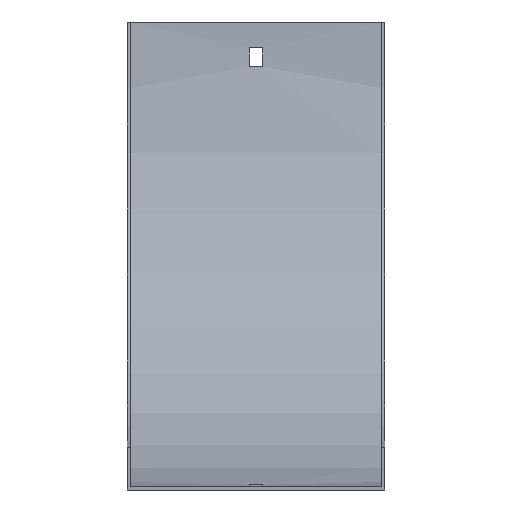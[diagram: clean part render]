
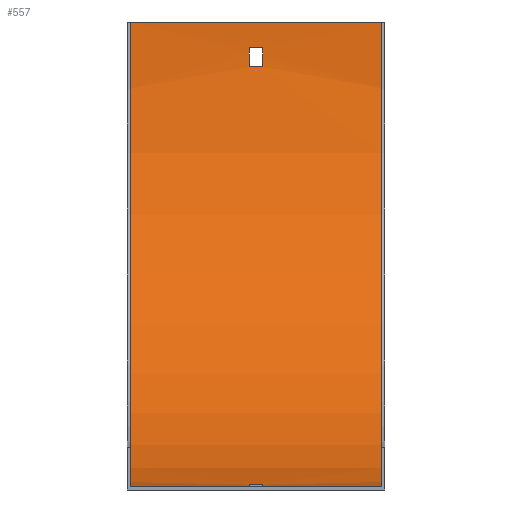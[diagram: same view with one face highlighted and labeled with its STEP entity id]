
A CAD part, front view. The second image highlights one B-rep face of the part: STEP entity #557.
In plain terms, the highlighted cylindrical face has radius 217.5 mm (diameter 435 mm), a partial arc.
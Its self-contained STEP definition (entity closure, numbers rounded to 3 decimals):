
#6 = CYLINDRICAL_SURFACE ( 'NONE', #323, 217.5 ) ;
#13 = DIRECTION ( 'NONE',  ( -1., 0., 0. ) ) ;
#23 = VECTOR ( 'NONE', #208, 1000. ) ;
#28 = CARTESIAN_POINT ( 'NONE',  ( -3.25, -219., 0. ) ) ;
#29 = CARTESIAN_POINT ( 'NONE',  ( 3.25, -198., -216.484 ) ) ;
#38 = CARTESIAN_POINT ( 'NONE',  ( 58.75, -219., 0. ) ) ;
#39 = CARTESIAN_POINT ( 'NONE',  ( 3.25, -2.516, -21. ) ) ;
#45 = EDGE_CURVE ( 'NONE', #457, #298, #189, .T. ) ;
#62 = VERTEX_POINT ( 'NONE', #272 ) ;
#78 = VERTEX_POINT ( 'NONE', #411 ) ;
#80 = DIRECTION ( 'NONE',  ( 0., 0., 1. ) ) ;
#81 = VERTEX_POINT ( 'NONE', #39 ) ;
#82 = CARTESIAN_POINT ( 'NONE',  ( 58.75, -1.5, 0. ) ) ;
#84 = CIRCLE ( 'NONE', #543, 217.5 ) ;
#91 = DIRECTION ( 'NONE',  ( 0., 0., 1. ) ) ;
#93 = CARTESIAN_POINT ( 'NONE',  ( -3.25, -198., -216.484 ) ) ;
#96 = ORIENTED_EDGE ( 'NONE', *, *, #195, .T. ) ;
#97 = CARTESIAN_POINT ( 'NONE',  ( -3.25, -207., -217.169 ) ) ;
#113 = EDGE_LOOP ( 'NONE', ( #217, #503, #534, #523 ) ) ;
#116 = CARTESIAN_POINT ( 'NONE',  ( 3.25, -219., 0. ) ) ;
#120 = DIRECTION ( 'NONE',  ( 0., 0., 1. ) ) ;
#122 = CARTESIAN_POINT ( 'NONE',  ( 60.25, -1.831, -12. ) ) ;
#126 = AXIS2_PLACEMENT_3D ( 'NONE', #519, #202, #568 ) ;
#132 = ORIENTED_EDGE ( 'NONE', *, *, #537, .F. ) ;
#133 = DIRECTION ( 'NONE',  ( 0., 0., -1. ) ) ;
#137 = EDGE_CURVE ( 'NONE', #269, #457, #184, .T. ) ;
#139 = CARTESIAN_POINT ( 'NONE',  ( -58.75, -219., 0. ) ) ;
#142 = VERTEX_POINT ( 'NONE', #29 ) ;
#148 = ORIENTED_EDGE ( 'NONE', *, *, #281, .F. ) ;
#149 = CARTESIAN_POINT ( 'NONE',  ( 60.25, -207., -217.169 ) ) ;
#163 = ORIENTED_EDGE ( 'NONE', *, *, #409, .F. ) ;
#167 = ORIENTED_EDGE ( 'NONE', *, *, #302, .T. ) ;
#184 = LINE ( 'NONE', #330, #541 ) ;
#189 = CIRCLE ( 'NONE', #511, 217.5 ) ;
#195 = EDGE_CURVE ( 'NONE', #142, #388, #480, .T. ) ;
#198 = CARTESIAN_POINT ( 'NONE',  ( 60.25, -2.516, -21. ) ) ;
#202 = DIRECTION ( 'NONE',  ( 1., 0., 0. ) ) ;
#208 = DIRECTION ( 'NONE',  ( -1., 0., 0. ) ) ;
#212 = LINE ( 'NONE', #310, #508 ) ;
#213 = EDGE_LOOP ( 'NONE', ( #163, #148, #132, #439 ) ) ;
#217 = ORIENTED_EDGE ( 'NONE', *, *, #45, .F. ) ;
#224 = DIRECTION ( 'NONE',  ( -1., 0., 0. ) ) ;
#243 = CARTESIAN_POINT ( 'NONE',  ( 58.75, -219., -217.5 ) ) ;
#249 = DIRECTION ( 'NONE',  ( 1., 0., 0. ) ) ;
#251 = ORIENTED_EDGE ( 'NONE', *, *, #428, .T. ) ;
#255 = CARTESIAN_POINT ( 'NONE',  ( 3.25, -207., -217.169 ) ) ;
#269 = VERTEX_POINT ( 'NONE', #243 ) ;
#270 = DIRECTION ( 'NONE',  ( 1., 0., 0. ) ) ;
#272 = CARTESIAN_POINT ( 'NONE',  ( 58.75, -1.5, 0. ) ) ;
#276 = ORIENTED_EDGE ( 'NONE', *, *, #555, .T. ) ;
#281 = EDGE_CURVE ( 'NONE', #78, #558, #578, .T. ) ;
#284 = VECTOR ( 'NONE', #249, 1000. ) ;
#294 = CIRCLE ( 'NONE', #126, 217.5 ) ;
#298 = VERTEX_POINT ( 'NONE', #490 ) ;
#302 = EDGE_CURVE ( 'NONE', #488, #142, #212, .T. ) ;
#310 = CARTESIAN_POINT ( 'NONE',  ( 60.25, -198., -216.484 ) ) ;
#313 = VECTOR ( 'NONE', #449, 1000. ) ;
#321 = CARTESIAN_POINT ( 'NONE',  ( -3.25, -219., 0. ) ) ;
#323 = AXIS2_PLACEMENT_3D ( 'NONE', #524, #13, #471 ) ;
#330 = CARTESIAN_POINT ( 'NONE',  ( 58.75, -219., -217.5 ) ) ;
#342 = FACE_OUTER_BOUND ( 'NONE', #113, .T. ) ;
#347 = EDGE_CURVE ( 'NONE', #62, #298, #453, .T. ) ;
#354 = DIRECTION ( 'NONE',  ( 1., 0., 0. ) ) ;
#373 = CARTESIAN_POINT ( 'NONE',  ( -58.75, -219., -217.5 ) ) ;
#388 = VERTEX_POINT ( 'NONE', #255 ) ;
#391 = VERTEX_POINT ( 'NONE', #444 ) ;
#409 = EDGE_CURVE ( 'NONE', #558, #391, #522, .T. ) ;
#411 = CARTESIAN_POINT ( 'NONE',  ( 3.25, -1.831, -12. ) ) ;
#428 = EDGE_CURVE ( 'NONE', #484, #488, #443, .T. ) ;
#439 = ORIENTED_EDGE ( 'NONE', *, *, #540, .F. ) ;
#441 = AXIS2_PLACEMENT_3D ( 'NONE', #116, #533, #120 ) ;
#443 = CIRCLE ( 'NONE', #510, 217.5 ) ;
#444 = CARTESIAN_POINT ( 'NONE',  ( -3.25, -2.516, -21. ) ) ;
#448 = EDGE_CURVE ( 'NONE', #269, #62, #84, .T. ) ;
#449 = DIRECTION ( 'NONE',  ( -1., 0., 0. ) ) ;
#451 = VECTOR ( 'NONE', #224, 1000. ) ;
#453 = LINE ( 'NONE', #82, #451 ) ;
#457 = VERTEX_POINT ( 'NONE', #373 ) ;
#465 = CARTESIAN_POINT ( 'NONE',  ( -3.25, -1.831, -12. ) ) ;
#471 = DIRECTION ( 'NONE',  ( 0., 0., 1. ) ) ;
#478 = FACE_BOUND ( 'NONE', #486, .T. ) ;
#480 = CIRCLE ( 'NONE', #441, 217.5 ) ;
#482 = LINE ( 'NONE', #198, #284 ) ;
#484 = VERTEX_POINT ( 'NONE', #97 ) ;
#486 = EDGE_LOOP ( 'NONE', ( #276, #251, #167, #96 ) ) ;
#488 = VERTEX_POINT ( 'NONE', #93 ) ;
#490 = CARTESIAN_POINT ( 'NONE',  ( -58.75, -1.5, 0. ) ) ;
#503 = ORIENTED_EDGE ( 'NONE', *, *, #137, .F. ) ;
#508 = VECTOR ( 'NONE', #354, 1000. ) ;
#510 = AXIS2_PLACEMENT_3D ( 'NONE', #321, #606, #133 ) ;
#511 = AXIS2_PLACEMENT_3D ( 'NONE', #139, #270, #80 ) ;
#516 = DIRECTION ( 'NONE',  ( -1., 0., 0. ) ) ;
#519 = CARTESIAN_POINT ( 'NONE',  ( 3.25, -219., 0. ) ) ;
#522 = CIRCLE ( 'NONE', #551, 217.5 ) ;
#523 = ORIENTED_EDGE ( 'NONE', *, *, #347, .T. ) ;
#524 = CARTESIAN_POINT ( 'NONE',  ( 60.25, -219., 0. ) ) ;
#533 = DIRECTION ( 'NONE',  ( -1., 0., 0. ) ) ;
#534 = ORIENTED_EDGE ( 'NONE', *, *, #448, .T. ) ;
#537 = EDGE_CURVE ( 'NONE', #81, #78, #294, .T. ) ;
#540 = EDGE_CURVE ( 'NONE', #391, #81, #482, .T. ) ;
#541 = VECTOR ( 'NONE', #516, 1000. ) ;
#543 = AXIS2_PLACEMENT_3D ( 'NONE', #38, #554, #91 ) ;
#551 = AXIS2_PLACEMENT_3D ( 'NONE', #28, #556, #559 ) ;
#554 = DIRECTION ( 'NONE',  ( 1., 0., 0. ) ) ;
#555 = EDGE_CURVE ( 'NONE', #388, #484, #575, .T. ) ;
#556 = DIRECTION ( 'NONE',  ( -1., 0., 0. ) ) ;
#557 = ADVANCED_FACE ( 'NONE', ( #561, #342, #478 ), #6, .F. ) ;
#558 = VERTEX_POINT ( 'NONE', #465 ) ;
#559 = DIRECTION ( 'NONE',  ( 0., 0., 1. ) ) ;
#561 = FACE_BOUND ( 'NONE', #213, .T. ) ;
#568 = DIRECTION ( 'NONE',  ( 0., 0., -1. ) ) ;
#575 = LINE ( 'NONE', #149, #23 ) ;
#578 = LINE ( 'NONE', #122, #313 ) ;
#606 = DIRECTION ( 'NONE',  ( 1., 0., 0. ) ) ;
